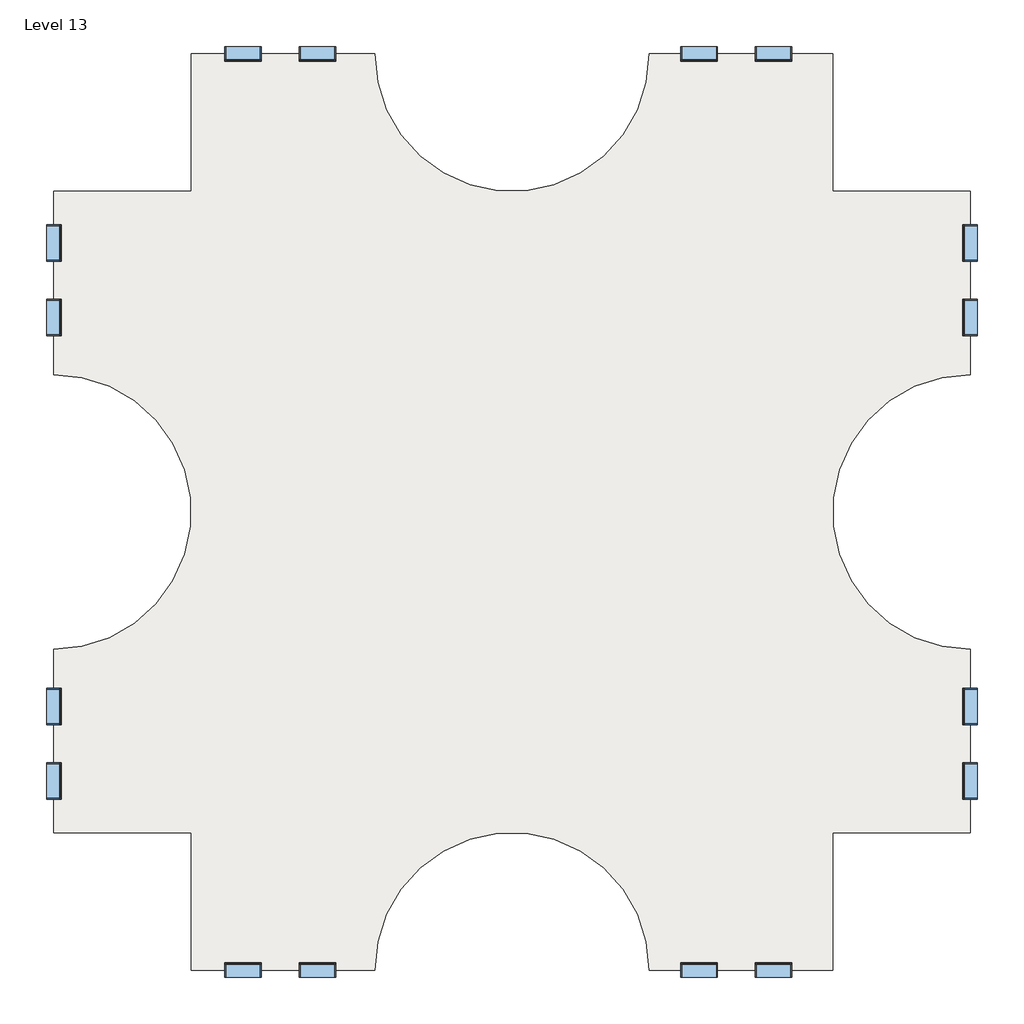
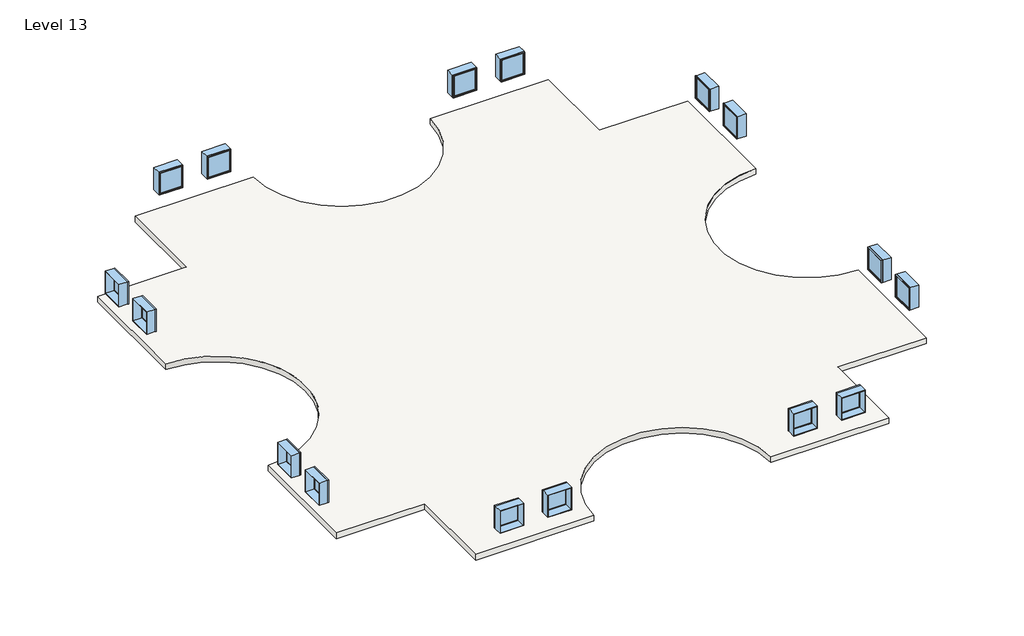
# One storey: 16 windows, 2 slabs.
"""IFC4 building model written with IfcOpenShell, lengths in millimetres."""

from ifc_helpers import new_model, si_unit, point, frame, frame_2d, origin, place, context, project, spatial, polyline, circle_curve, trimmed, segment, composite_curve, outline, extrude, transform, mapped, element, save
from components import window_d0035ecf, window_d434eb62

model = new_model("IFC4")

# Units and contexts
model_context = context("Model", 3, world=origin())
ifc_project = project(units=[si_unit("LENGTHUNIT", "METRE", prefix="MILLI")], contexts=[model_context])

# Site, building, storey
site = spatial("IfcSite", under=ifc_project)
building = spatial("IfcBuilding", under=site)
storey = spatial("IfcBuildingStorey", under=building, Name="Level 13", Elevation=36576.0)

# Slabs
placement = place(None, origin())
element("IfcSlab", 1, ObjectType="Generic - 12\"", at=placement, inside=storey, context=model_context, shape_type="SweptSolid", body=[
    extrude(outline(composite_curve([segment(polyline([(-7150.3629456, 4479.6634547), (-7150.3629456, 9051.6634547), (-1054.3629456, 9051.6634547)]), True, "CONTINUOUS"), segment(trimmed(circle_curve(frame_2d((3517.6370544, 9051.6634547)), 4572.0), [point((-1054.3629456, 9051.6634547))], [point((8089.6370544, 9051.6634547))], True, "CARTESIAN"), True, "CONTINUOUS"), segment(polyline([(8089.6370544, 9051.6634547), (14185.6370544, 9051.6634547), (14185.6370544, 4479.6634547), (18757.6370544, 4479.6634547), (18757.6370544, -1616.3365453)]), True, "CONTINUOUS"), segment(trimmed(circle_curve(frame_2d((18757.6370544, -6188.3365453)), 4572.0), [point((18757.6370544, -1616.3365453))], [point((18757.6370544, -10760.3365453))], True, "CARTESIAN"), True, "CONTINUOUS"), segment(polyline([(18757.6370544, -10760.3365453), (18757.6370544, -16856.3365453), (14185.6370544, -16856.3365453), (14185.6370544, -21428.3365453), (8089.6370544, -21428.3365453)]), True, "CONTINUOUS"), segment(trimmed(circle_curve(frame_2d((3517.6370544, -21428.3365453)), 4572.0), [point((8089.6370544, -21428.3365453))], [point((-1054.3629456, -21428.3365453))], True, "CARTESIAN"), True, "CONTINUOUS"), segment(polyline([(-1054.3629456, -21428.3365453), (-7150.3629456, -21428.3365453), (-7150.3629456, -16856.3365453), (-11722.3629456, -16856.3365453), (-11722.3629456, -10760.3365453)]), True, "CONTINUOUS"), segment(trimmed(circle_curve(frame_2d((-11722.3629456, -6188.3365453)), 4572.0), [point((-11722.3629456, -10760.3365453))], [point((-11722.3629456, -1616.3365453))], True, "CARTESIAN"), True, "CONTINUOUS"), segment(polyline([(-11722.3629456, -1616.3365453), (-11722.3629456, 4479.6634547), (-7150.3629456, 4479.6634547)]), True, "CONTINUOUS")], self_intersect=False)), frame((0.0, 0.0, 36271.2), z_axis=(0.0, 0.0, 1.0), x_axis=(1.0, 0.0, 0.0)), (0.0, 0.0, 1.0), 304.8),
])
element("IfcSlab", 2, ObjectType="Generic - 12\"", at=placement, inside=storey, context=model_context, shape_type="SweptSolid", body=[
    extrude(outline(composite_curve([segment(polyline([(-7150.3629456, 4479.6634547), (-7150.3629456, 9051.6634547), (-1054.3629456, 9051.6634547)]), True, "CONTINUOUS"), segment(trimmed(circle_curve(frame_2d((3517.6370544, 9051.6634547)), 4572.0), [point((-1054.3629456, 9051.6634547))], [point((8089.6370544, 9051.6634547))], True, "CARTESIAN"), True, "CONTINUOUS"), segment(polyline([(8089.6370544, 9051.6634547), (14185.6370544, 9051.6634547), (14185.6370544, 4479.6634547), (18757.6370544, 4479.6634547), (18757.6370544, -1616.3365453)]), True, "CONTINUOUS"), segment(trimmed(circle_curve(frame_2d((18757.6370544, -6188.3365453)), 4572.0), [point((18757.6370544, -1616.3365453))], [point((18757.6370544, -10760.3365453))], True, "CARTESIAN"), True, "CONTINUOUS"), segment(polyline([(18757.6370544, -10760.3365453), (18757.6370544, -16856.3365453), (14185.6370544, -16856.3365453), (14185.6370544, -21428.3365453), (8089.6370544, -21428.3365453)]), True, "CONTINUOUS"), segment(trimmed(circle_curve(frame_2d((3517.6370544, -21428.3365453)), 4572.0), [point((8089.6370544, -21428.3365453))], [point((-1054.3629456, -21428.3365453))], True, "CARTESIAN"), True, "CONTINUOUS"), segment(polyline([(-1054.3629456, -21428.3365453), (-7150.3629456, -21428.3365453), (-7150.3629456, -16856.3365453), (-11722.3629456, -16856.3365453), (-11722.3629456, -10760.3365453)]), True, "CONTINUOUS"), segment(trimmed(circle_curve(frame_2d((-11722.3629456, -6188.3365453)), 4572.0), [point((-11722.3629456, -10760.3365453))], [point((-11722.3629456, -1616.3365453))], True, "CARTESIAN"), True, "CONTINUOUS"), segment(polyline([(-11722.3629456, -1616.3365453), (-11722.3629456, 4479.6634547), (-7150.3629456, 4479.6634547)]), True, "CONTINUOUS")], self_intersect=False)), frame((0.0, 0.0, 36271.2), z_axis=(0.0, 0.0, 1.0), x_axis=(1.0, 0.0, 0.0)), (0.0, 0.0, 1.0), 304.8),
])

# Windows
window_shape = window_d0035ecf(model_context)
element("IfcWindow", 3, ObjectType="Fixed : 48\" x 48\"", at=placement, inside=storey, context=model_context, shape_type="MappedRepresentation", body=[
    mapped(window_shape, transform((-11719.1879456, 247.3884547, 36576.0), x_axis=(0.0, -1.0, 0.0), y_axis=(1.0, 0.0, 0.0), z_axis=(0.0, 0.0, 1.0))),
])
element("IfcWindow", 4, ObjectType="Fixed : 48\" x 48\"", at=placement, inside=storey, context=model_context, shape_type="MappedRepresentation", body=[
    mapped(window_shape, transform((-5469.1993281, 9048.4884547, 36576.0), x_axis=(-1.0, 0.0, 0.0), y_axis=(0.0, -1.0, 0.0), z_axis=(0.0, 0.0, 1.0))),
])
element("IfcWindow", 5, ObjectType="Fixed : 48\" x 48\"", at=placement, inside=storey, context=model_context, shape_type="MappedRepresentation", body=[
    mapped(window_shape, transform((-11719.1879456, -15175.1729277, 36576.0), x_axis=(0.0, -1.0, 0.0), y_axis=(1.0, 0.0, 0.0), z_axis=(0.0, 0.0, 1.0))),
])
element("IfcWindow", 6, ObjectType="Fixed : 48\" x 48\"", at=placement, inside=storey, context=model_context, shape_type="MappedRepresentation", body=[
    mapped(window_shape, transform((-2918.0879456, -21425.1615453, 36576.0), x_axis=(1.0, 0.0, 0.0), y_axis=(0.0, 1.0, 0.0), z_axis=(0.0, 0.0, 1.0))),
])
element("IfcWindow", 7, ObjectType="Fixed : 48\" x 48\"", at=placement, inside=storey, context=model_context, shape_type="MappedRepresentation", body=[
    mapped(window_shape, transform((18754.4620544, 2798.4998372, 36576.0), x_axis=(0.0, 1.0, 0.0), y_axis=(-1.0, 0.0, 0.0), z_axis=(0.0, 0.0, 1.0))),
])
element("IfcWindow", 8, ObjectType="Fixed : 48\" x 48\"", at=placement, inside=storey, context=model_context, shape_type="MappedRepresentation", body=[
    mapped(window_shape, transform((9705.7120544, 9048.4884547, 36576.0), x_axis=(-1.0, 0.0, 0.0), y_axis=(0.0, -1.0, 0.0), z_axis=(0.0, 0.0, 1.0))),
])
element("IfcWindow", 9, ObjectType="Fixed : 48\" x 48\"", at=placement, inside=storey, context=model_context, shape_type="MappedRepresentation", body=[
    mapped(window_shape, transform((18754.4620544, -12624.0615453, 36576.0), x_axis=(0.0, 1.0, 0.0), y_axis=(-1.0, 0.0, 0.0), z_axis=(0.0, 0.0, 1.0))),
])
element("IfcWindow", 10, ObjectType="Fixed : 48\" x 48\"", at=placement, inside=storey, context=model_context, shape_type="MappedRepresentation", body=[
    mapped(window_shape, transform((12256.8234368, -21425.1615453, 36576.0), x_axis=(1.0, 0.0, 0.0), y_axis=(0.0, 1.0, 0.0), z_axis=(0.0, 0.0, 1.0))),
])
window_2_shape = window_d434eb62(model_context)
element("IfcWindow", 11, ObjectType="Fixed : 48\" x 48\"", at=placement, inside=storey, context=model_context, shape_type="MappedRepresentation", body=[
    mapped(window_2_shape, transform((-11719.1879456, 2798.4998372, 36576.0), x_axis=(0.0, 1.0, 0.0), y_axis=(-1.0, 0.0, 0.0), z_axis=(0.0, 0.0, 1.0))),
])
element("IfcWindow", 12, ObjectType="Fixed : 48\" x 48\"", at=placement, inside=storey, context=model_context, shape_type="MappedRepresentation", body=[
    mapped(window_2_shape, transform((-2918.0879456, 9048.4884547, 36576.0), x_axis=(1.0, 0.0, 0.0), y_axis=(0.0, 1.0, 0.0), z_axis=(0.0, 0.0, 1.0))),
])
element("IfcWindow", 13, ObjectType="Fixed : 48\" x 48\"", at=placement, inside=storey, context=model_context, shape_type="MappedRepresentation", body=[
    mapped(window_2_shape, transform((-11719.1879456, -12624.0615453, 36576.0), x_axis=(0.0, 1.0, 0.0), y_axis=(-1.0, 0.0, 0.0), z_axis=(0.0, 0.0, 1.0))),
])
element("IfcWindow", 14, ObjectType="Fixed : 48\" x 48\"", at=placement, inside=storey, context=model_context, shape_type="MappedRepresentation", body=[
    mapped(window_2_shape, transform((-5469.1993281, -21425.1615453, 36576.0), x_axis=(-1.0, 0.0, 0.0), y_axis=(0.0, -1.0, 0.0), z_axis=(0.0, 0.0, 1.0))),
])
element("IfcWindow", 15, ObjectType="Fixed : 48\" x 48\"", at=placement, inside=storey, context=model_context, shape_type="MappedRepresentation", body=[
    mapped(window_2_shape, transform((18754.4620544, 247.3884547, 36576.0), x_axis=(0.0, -1.0, 0.0), y_axis=(1.0, 0.0, 0.0), z_axis=(0.0, 0.0, 1.0))),
])
element("IfcWindow", 16, ObjectType="Fixed : 48\" x 48\"", at=placement, inside=storey, context=model_context, shape_type="MappedRepresentation", body=[
    mapped(window_2_shape, transform((12256.8234368, 9048.4884547, 36576.0), x_axis=(1.0, 0.0, 0.0), y_axis=(0.0, 1.0, 0.0), z_axis=(0.0, 0.0, 1.0))),
])
element("IfcWindow", 17, ObjectType="Fixed : 48\" x 48\"", at=placement, inside=storey, context=model_context, shape_type="MappedRepresentation", body=[
    mapped(window_2_shape, transform((18754.4620544, -15175.1729277, 36576.0), x_axis=(0.0, -1.0, 0.0), y_axis=(1.0, 0.0, 0.0), z_axis=(0.0, 0.0, 1.0))),
])
element("IfcWindow", 18, ObjectType="Fixed : 48\" x 48\"", at=placement, inside=storey, context=model_context, shape_type="MappedRepresentation", body=[
    mapped(window_2_shape, transform((9705.7120544, -21425.1615453, 36576.0), x_axis=(-1.0, 0.0, 0.0), y_axis=(0.0, -1.0, 0.0), z_axis=(0.0, 0.0, 1.0))),
])

save(model, "model.ifc")
